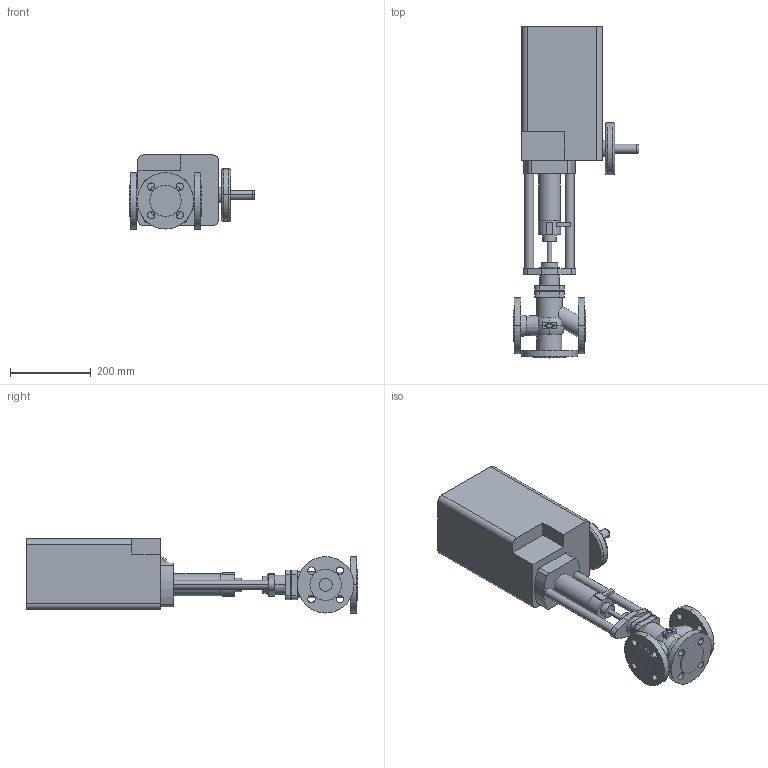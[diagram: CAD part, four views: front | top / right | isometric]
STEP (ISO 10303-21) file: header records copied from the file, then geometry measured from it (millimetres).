
FILE_DESCRIPTION(('OneSpaceDesigner STEP Export'),'2;1');
FILE_NAME('c000002408.stp','2006-09-19T12:04:23',(''),(''),'OneSpace Designer STEP processor for AP214 (Solid Model)','OneSpace Designer 13.20A 18-Aug-2005 (C) CoCreate Software GmbH','');
FILE_SCHEMA(('AUTOMOTIVE_DESIGN { 1 0 10303 214 1 1 1 1 }'));
Length unit declared in the file: millimetre
Products named in the file (2): 1; 2
Bounding box: 311.6 x 823.5 x 184 mm (x, y, z)
Volume: 14291842.3 mm3; surface area: 618806.1 mm2
Topology: 2 solids, 2 shells, 201 faces, 497 edges, 329 vertices
Faces by surface type: cylinder 94, plane 90, torus 13, cone 4
Entity records: 5611 total; most frequent: CARTESIAN_POINT 1106, ORIENTED_EDGE 994, DIRECTION 837, EDGE_CURVE 497, VERTEX_POINT 329, AXIS2_PLACEMENT_3D 298, EDGE_LOOP 254, VECTOR 241
